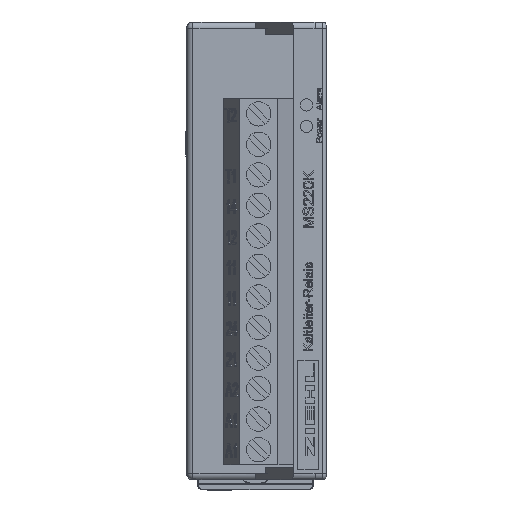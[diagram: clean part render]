
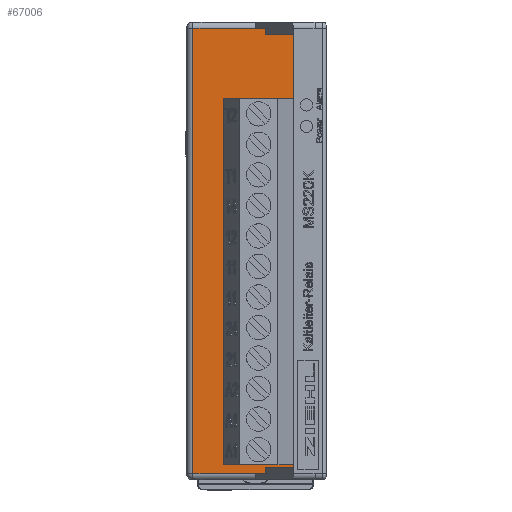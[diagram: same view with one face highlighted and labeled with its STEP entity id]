
A CAD part, left-side view. The second image highlights one B-rep face of the part: STEP entity #67006.
In plain terms, the highlighted planar face has unit normal (-1, 0, 0) as drawn and (1, 0, 0) by its records, which use the part's own axes.
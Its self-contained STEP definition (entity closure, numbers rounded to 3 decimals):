
#4994 = DIRECTION ( 'NONE',  ( 0., 0., 1. ) ) ;
#9064 = ORIENTED_EDGE ( 'NONE', *, *, #94022, .F. ) ;
#10436 = EDGE_CURVE ( 'NONE', #123240, #25756, #25860, .T. ) ;
#11491 = CARTESIAN_POINT ( 'NONE',  ( 30., 1.2, 36.5 ) ) ;
#11530 = EDGE_CURVE ( 'NONE', #25756, #100114, #114274, .T. ) ;
#21571 = ORIENTED_EDGE ( 'NONE', *, *, #108047, .T. ) ;
#23369 = CARTESIAN_POINT ( 'NONE',  ( 30., 0.2, -36.5 ) ) ;
#25756 = VERTEX_POINT ( 'NONE', #129917 ) ;
#25860 = LINE ( 'NONE', #136152, #109659 ) ;
#25918 = LINE ( 'NONE', #79628, #138672 ) ;
#26350 = AXIS2_PLACEMENT_3D ( 'NONE', #63675, #127167, #83711 ) ;
#28667 = EDGE_CURVE ( 'NONE', #124834, #83641, #123730, .T. ) ;
#29605 = DIRECTION ( 'NONE',  ( 0., 0., 1. ) ) ;
#30223 = PLANE ( 'NONE',  #26350 ) ;
#32569 = ORIENTED_EDGE ( 'NONE', *, *, #28667, .F. ) ;
#32785 = CARTESIAN_POINT ( 'NONE',  ( 30., -16.3, 36.5 ) ) ;
#35972 = VECTOR ( 'NONE', #29605, 1000. ) ;
#36688 = LINE ( 'NONE', #42406, #60621 ) ;
#41846 = CARTESIAN_POINT ( 'NONE',  ( 30., -16.3, -35.5 ) ) ;
#42406 = CARTESIAN_POINT ( 'NONE',  ( 30., -16.3, -35.5 ) ) ;
#42940 = EDGE_CURVE ( 'NONE', #135209, #74820, #25918, .T. ) ;
#49442 = CARTESIAN_POINT ( 'NONE',  ( 30., -16.3, 35.5 ) ) ;
#50575 = DIRECTION ( 'NONE',  ( 0., 0., 1. ) ) ;
#52016 = VECTOR ( 'NONE', #50575, 1000. ) ;
#52779 = VECTOR ( 'NONE', #109940, 1000. ) ;
#60621 = VECTOR ( 'NONE', #109263, 1000. ) ;
#63578 = CARTESIAN_POINT ( 'NONE',  ( 30., -14.3, 35.5 ) ) ;
#63675 = CARTESIAN_POINT ( 'NONE',  ( 30., 1.2, 37.5 ) ) ;
#67006 = ADVANCED_FACE ( 'NONE', ( #137663 ), #30223, .F. ) ;
#68684 = VECTOR ( 'NONE', #136775, 1000. ) ;
#73931 = ORIENTED_EDGE ( 'NONE', *, *, #10436, .T. ) ;
#74329 = CARTESIAN_POINT ( 'NONE',  ( 30., 1.2, -36.5 ) ) ;
#74820 = VERTEX_POINT ( 'NONE', #133593 ) ;
#75021 = DIRECTION ( 'NONE',  ( 0., 0., 1. ) ) ;
#75193 = EDGE_CURVE ( 'NONE', #120660, #123240, #100947, .T. ) ;
#77321 = ORIENTED_EDGE ( 'NONE', *, *, #42940, .F. ) ;
#79628 = CARTESIAN_POINT ( 'NONE',  ( 30., -16.3, 36.5 ) ) ;
#79840 = CARTESIAN_POINT ( 'NONE',  ( 30., -10.082, 36.5 ) ) ;
#82441 = VERTEX_POINT ( 'NONE', #101942 ) ;
#83641 = VERTEX_POINT ( 'NONE', #130943 ) ;
#83711 = DIRECTION ( 'NONE',  ( 0., 0., 1. ) ) ;
#84893 = CARTESIAN_POINT ( 'NONE',  ( 30., -14.3, -37.5 ) ) ;
#89343 = ORIENTED_EDGE ( 'NONE', *, *, #11530, .T. ) ;
#89454 = LINE ( 'NONE', #32785, #121911 ) ;
#93597 = CARTESIAN_POINT ( 'NONE',  ( 30., -14.3, 35.5 ) ) ;
#94022 = EDGE_CURVE ( 'NONE', #74820, #107585, #119950, .T. ) ;
#95379 = LINE ( 'NONE', #107817, #136279 ) ;
#96768 = DIRECTION ( 'NONE',  ( 0., 1., 0. ) ) ;
#100114 = VERTEX_POINT ( 'NONE', #79840 ) ;
#100947 = LINE ( 'NONE', #74329, #126507 ) ;
#101942 = CARTESIAN_POINT ( 'NONE',  ( 30., -14.3, 36.5 ) ) ;
#106138 = EDGE_LOOP ( 'NONE', ( #73931, #89343, #106371, #108106, #9064, #77321, #111875, #32569, #21571, #106755 ) ) ;
#106371 = ORIENTED_EDGE ( 'NONE', *, *, #137859, .F. ) ;
#106755 = ORIENTED_EDGE ( 'NONE', *, *, #75193, .T. ) ;
#107585 = VERTEX_POINT ( 'NONE', #63578 ) ;
#107817 = CARTESIAN_POINT ( 'NONE',  ( 30., -16.3, -36.5 ) ) ;
#108047 = EDGE_CURVE ( 'NONE', #124834, #120660, #95379, .T. ) ;
#108106 = ORIENTED_EDGE ( 'NONE', *, *, #132710, .F. ) ;
#109263 = DIRECTION ( 'NONE',  ( 0., -1., 0. ) ) ;
#109659 = VECTOR ( 'NONE', #75021, 1000. ) ;
#109940 = DIRECTION ( 'NONE',  ( 0., -1., 0. ) ) ;
#111875 = ORIENTED_EDGE ( 'NONE', *, *, #130106, .F. ) ;
#114274 = LINE ( 'NONE', #11491, #52779 ) ;
#114608 = LINE ( 'NONE', #93597, #35972 ) ;
#118284 = DIRECTION ( 'NONE',  ( 0., 1., 0. ) ) ;
#119950 = LINE ( 'NONE', #49442, #68684 ) ;
#120660 = VERTEX_POINT ( 'NONE', #132588 ) ;
#121911 = VECTOR ( 'NONE', #96768, 1000. ) ;
#123240 = VERTEX_POINT ( 'NONE', #23369 ) ;
#123730 = LINE ( 'NONE', #84893, #52016 ) ;
#124834 = VERTEX_POINT ( 'NONE', #135743 ) ;
#126507 = VECTOR ( 'NONE', #128740, 1000. ) ;
#127167 = DIRECTION ( 'NONE',  ( -1., 0., 0. ) ) ;
#128740 = DIRECTION ( 'NONE',  ( 0., 1., 0. ) ) ;
#129917 = CARTESIAN_POINT ( 'NONE',  ( 30., 0.2, 36.5 ) ) ;
#130106 = EDGE_CURVE ( 'NONE', #83641, #135209, #36688, .T. ) ;
#130943 = CARTESIAN_POINT ( 'NONE',  ( 30., -14.3, -35.5 ) ) ;
#132588 = CARTESIAN_POINT ( 'NONE',  ( 30., -10.082, -36.5 ) ) ;
#132710 = EDGE_CURVE ( 'NONE', #107585, #82441, #114608, .T. ) ;
#133593 = CARTESIAN_POINT ( 'NONE',  ( 30., -16.3, 35.5 ) ) ;
#135209 = VERTEX_POINT ( 'NONE', #41846 ) ;
#135743 = CARTESIAN_POINT ( 'NONE',  ( 30., -14.3, -36.5 ) ) ;
#136152 = CARTESIAN_POINT ( 'NONE',  ( 30., 0.2, 37.5 ) ) ;
#136279 = VECTOR ( 'NONE', #118284, 1000. ) ;
#136775 = DIRECTION ( 'NONE',  ( 0., 1., 0. ) ) ;
#137663 = FACE_OUTER_BOUND ( 'NONE', #106138, .T. ) ;
#137859 = EDGE_CURVE ( 'NONE', #82441, #100114, #89454, .T. ) ;
#138672 = VECTOR ( 'NONE', #4994, 1000. ) ;
